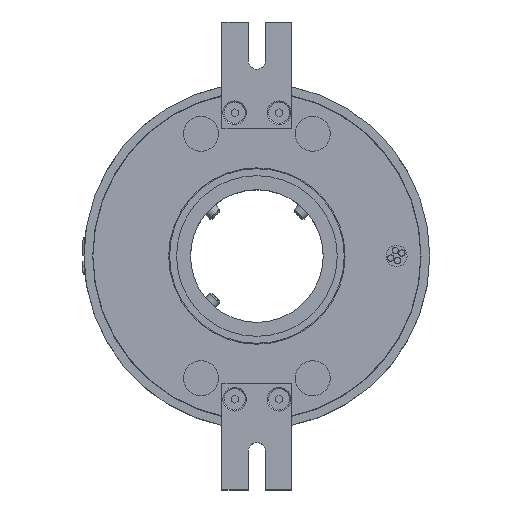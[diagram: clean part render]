
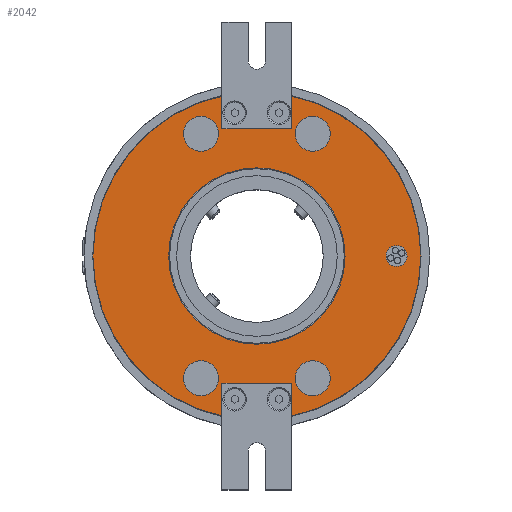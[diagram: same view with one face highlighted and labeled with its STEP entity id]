
A CAD part, top view. The second image highlights one B-rep face of the part: STEP entity #2042.
In plain terms, the highlighted planar face has unit normal (0, 0, 1).
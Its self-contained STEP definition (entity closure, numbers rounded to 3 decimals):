
#268=FACE_BOUND('',#5111,.T.);
#269=FACE_BOUND('',#5112,.T.);
#270=FACE_BOUND('',#5113,.T.);
#271=FACE_BOUND('',#5114,.T.);
#272=FACE_BOUND('',#5115,.T.);
#273=FACE_BOUND('',#5116,.T.);
#274=FACE_BOUND('',#5117,.T.);
#527=CIRCLE('',#16915,46.95);
#528=CIRCLE('',#16916,46.95);
#530=CIRCLE('',#16919,25.25);
#532=CIRCLE('',#16922,5.);
#534=CIRCLE('',#16925,5.);
#536=CIRCLE('',#16928,5.);
#538=CIRCLE('',#16931,5.);
#540=CIRCLE('',#16934,3.);
#960=PLANE('',#16936);
#1186=LINE('',#31476,#3252);
#1190=LINE('',#31484,#3256);
#1194=LINE('',#31491,#3260);
#1248=LINE('',#31626,#3314);
#1252=LINE('',#31634,#3318);
#1256=LINE('',#31641,#3322);
#2042=ADVANCED_FACE('',(#268,#269,#270,#271,#272,#273,#274),#960,.T.);
#3252=VECTOR('',#18421,1.);
#3256=VECTOR('',#18427,1.);
#3260=VECTOR('',#18433,1.);
#3314=VECTOR('',#18563,1.);
#3318=VECTOR('',#18569,1.);
#3322=VECTOR('',#18575,1.);
#5111=EDGE_LOOP('',(#8577));
#5112=EDGE_LOOP('',(#8578));
#5113=EDGE_LOOP('',(#8579));
#5114=EDGE_LOOP('',(#8580));
#5115=EDGE_LOOP('',(#8581));
#5116=EDGE_LOOP('',(#8582));
#5117=EDGE_LOOP('',(#8583,#8584,#8585,#8586,#8587,#8588,#8589,#8590));
#8577=ORIENTED_EDGE('',*,*,#13689,.F.);
#8578=ORIENTED_EDGE('',*,*,#13687,.T.);
#8579=ORIENTED_EDGE('',*,*,#13685,.T.);
#8580=ORIENTED_EDGE('',*,*,#13683,.T.);
#8581=ORIENTED_EDGE('',*,*,#13681,.T.);
#8582=ORIENTED_EDGE('',*,*,#13679,.F.);
#8583=ORIENTED_EDGE('',*,*,#13536,.F.);
#8584=ORIENTED_EDGE('',*,*,#13676,.F.);
#8585=ORIENTED_EDGE('',*,*,#13599,.F.);
#8586=ORIENTED_EDGE('',*,*,#13603,.F.);
#8587=ORIENTED_EDGE('',*,*,#13607,.F.);
#8588=ORIENTED_EDGE('',*,*,#13677,.F.);
#8589=ORIENTED_EDGE('',*,*,#13528,.F.);
#8590=ORIENTED_EDGE('',*,*,#13532,.F.);
#11355=VERTEX_POINT('',#31475);
#11356=VERTEX_POINT('',#31477);
#11358=VERTEX_POINT('',#31483);
#11360=VERTEX_POINT('',#31490);
#11403=VERTEX_POINT('',#31625);
#11404=VERTEX_POINT('',#31627);
#11406=VERTEX_POINT('',#31633);
#11408=VERTEX_POINT('',#31640);
#11457=VERTEX_POINT('',#31857);
#11459=VERTEX_POINT('',#31862);
#11461=VERTEX_POINT('',#31867);
#11463=VERTEX_POINT('',#31872);
#11465=VERTEX_POINT('',#31877);
#11467=VERTEX_POINT('',#31882);
#13528=EDGE_CURVE('',#11355,#11356,#1186,.T.);
#13532=EDGE_CURVE('',#11358,#11355,#1190,.T.);
#13536=EDGE_CURVE('',#11360,#11358,#1194,.T.);
#13599=EDGE_CURVE('',#11403,#11404,#1248,.T.);
#13603=EDGE_CURVE('',#11406,#11403,#1252,.T.);
#13607=EDGE_CURVE('',#11408,#11406,#1256,.T.);
#13676=EDGE_CURVE('',#11404,#11360,#527,.T.);
#13677=EDGE_CURVE('',#11356,#11408,#528,.T.);
#13679=EDGE_CURVE('',#11457,#11457,#530,.T.);
#13681=EDGE_CURVE('',#11459,#11459,#532,.T.);
#13683=EDGE_CURVE('',#11461,#11461,#534,.T.);
#13685=EDGE_CURVE('',#11463,#11463,#536,.T.);
#13687=EDGE_CURVE('',#11465,#11465,#538,.T.);
#13689=EDGE_CURVE('',#11467,#11467,#540,.T.);
#16915=AXIS2_PLACEMENT_3D('',#31851,#18738,#18739);
#16916=AXIS2_PLACEMENT_3D('',#31852,#18740,#18741);
#16919=AXIS2_PLACEMENT_3D('',#31856,#18746,#18747);
#16922=AXIS2_PLACEMENT_3D('',#31861,#18752,#18753);
#16925=AXIS2_PLACEMENT_3D('',#31866,#18758,#18759);
#16928=AXIS2_PLACEMENT_3D('',#31871,#18764,#18765);
#16931=AXIS2_PLACEMENT_3D('',#31876,#18770,#18771);
#16934=AXIS2_PLACEMENT_3D('',#31881,#18776,#18777);
#16936=AXIS2_PLACEMENT_3D('',#31884,#18780,#18781);
#18421=DIRECTION('',(0.,1.,0.));
#18427=DIRECTION('',(1.,0.,0.));
#18433=DIRECTION('',(0.,-1.,0.));
#18563=DIRECTION('',(0.,-1.,0.));
#18569=DIRECTION('',(-1.,0.,0.));
#18575=DIRECTION('',(0.,1.,0.));
#18738=DIRECTION('',(0.,0.,-1.));
#18739=DIRECTION('',(1.,0.,0.));
#18740=DIRECTION('',(0.,0.,-1.));
#18741=DIRECTION('',(1.,0.,0.));
#18746=DIRECTION('',(0.,0.,1.));
#18747=DIRECTION('',(1.,0.,0.));
#18752=DIRECTION('',(0.,0.,-1.));
#18753=DIRECTION('',(1.,0.,0.));
#18758=DIRECTION('',(0.,0.,-1.));
#18759=DIRECTION('',(-1.,0.,0.));
#18764=DIRECTION('',(0.,0.,-1.));
#18765=DIRECTION('',(1.,0.,0.));
#18770=DIRECTION('',(0.,0.,-1.));
#18771=DIRECTION('',(-1.,0.,0.));
#18776=DIRECTION('',(0.,0.,1.));
#18777=DIRECTION('',(0.866,-0.5,0.));
#18780=DIRECTION('',(0.,0.,1.));
#18781=DIRECTION('',(1.,0.,0.));
#31475=CARTESIAN_POINT('',(10.,36.5,50.));
#31476=CARTESIAN_POINT('',(10.,51.75,50.));
#31477=CARTESIAN_POINT('',(10.,45.873,50.));
#31483=CARTESIAN_POINT('',(-10.,36.5,50.));
#31484=CARTESIAN_POINT('',(0.,36.5,50.));
#31490=CARTESIAN_POINT('',(-10.,45.873,50.));
#31491=CARTESIAN_POINT('',(-10.,51.75,50.));
#31625=CARTESIAN_POINT('',(-10.,-36.5,50.));
#31626=CARTESIAN_POINT('',(-10.,-51.75,50.));
#31627=CARTESIAN_POINT('',(-10.,-45.873,50.));
#31633=CARTESIAN_POINT('',(10.,-36.5,50.));
#31634=CARTESIAN_POINT('',(0.,-36.5,50.));
#31640=CARTESIAN_POINT('',(10.,-45.873,50.));
#31641=CARTESIAN_POINT('',(10.,-51.75,50.));
#31851=CARTESIAN_POINT('',(0.,0.,50.));
#31852=CARTESIAN_POINT('',(0.,0.,50.));
#31856=CARTESIAN_POINT('',(0.,0.,50.));
#31857=CARTESIAN_POINT('',(25.25,0.,50.));
#31861=CARTESIAN_POINT('',(16.,35.,50.));
#31862=CARTESIAN_POINT('',(21.,35.,50.));
#31866=CARTESIAN_POINT('',(-16.,-35.,50.));
#31867=CARTESIAN_POINT('',(-21.,-35.,50.));
#31871=CARTESIAN_POINT('',(-16.,35.,50.));
#31872=CARTESIAN_POINT('',(-11.,35.,50.));
#31876=CARTESIAN_POINT('',(16.,-35.,50.));
#31877=CARTESIAN_POINT('',(11.,-35.,50.));
#31881=CARTESIAN_POINT('',(40.,0.,50.));
#31882=CARTESIAN_POINT('',(42.598,-1.5,50.));
#31884=CARTESIAN_POINT('',(0.,0.,50.));
